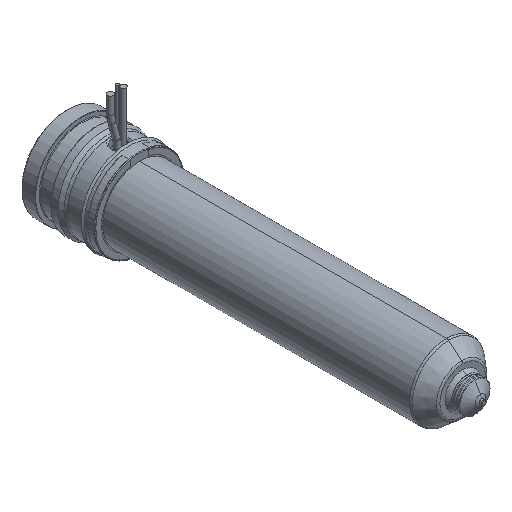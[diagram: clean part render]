
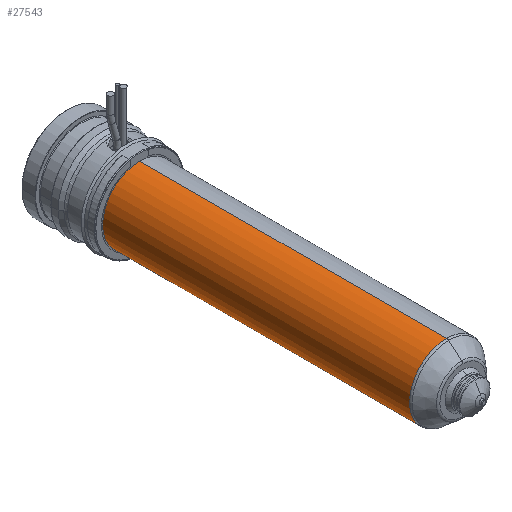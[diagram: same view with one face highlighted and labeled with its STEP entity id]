
A CAD part, isometric view. The second image highlights one B-rep face of the part: STEP entity #27543.
In plain terms, the highlighted cylindrical face has radius 12 mm (diameter 24 mm), a partial arc.
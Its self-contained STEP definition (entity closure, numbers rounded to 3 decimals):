
#26934=CARTESIAN_POINT('',(0.,-123.736,0.));
#26935=DIRECTION('',(0.,-1.,0.));
#26936=DIRECTION('',(0.,0.,1.));
#26937=AXIS2_PLACEMENT_3D('',#26934,#26935,#26936);
#26942=CARTESIAN_POINT('',(0.,-24.,0.));
#26943=DIRECTION('',(0.,1.,0.));
#26944=DIRECTION('',(0.,0.,-1.));
#26945=AXIS2_PLACEMENT_3D('',#26942,#26943,#26944);
#26950=DIRECTION('',(0.,1.,0.));
#26951=VECTOR('',#26950,99.736);
#26952=CARTESIAN_POINT('',(0.,-123.736,12.));
#26953=LINE('',#26952,#26951);
#26965=DIRECTION('',(0.,1.,0.));
#26966=VECTOR('',#26965,99.736);
#26967=CARTESIAN_POINT('',(0.,-123.736,-12.));
#26968=LINE('',#26967,#26966);
#27148=CARTESIAN_POINT('',(0.,-123.736,12.));
#27149=CARTESIAN_POINT('',(0.,-24.,12.));
#27150=VERTEX_POINT('',#27148);
#27151=VERTEX_POINT('',#27149);
#27152=CARTESIAN_POINT('',(0.,-123.736,-12.));
#27153=CARTESIAN_POINT('',(0.,-24.,-12.));
#27154=VERTEX_POINT('',#27152);
#27155=VERTEX_POINT('',#27153);
#27529=CARTESIAN_POINT('',(0.,-14.2,0.));
#27530=DIRECTION('',(0.,-1.,0.));
#27531=DIRECTION('',(0.,0.,1.));
#27532=AXIS2_PLACEMENT_3D('',#27529,#27530,#27531);
#27533=CYLINDRICAL_SURFACE('',#27532,12.);
#27535=ORIENTED_EDGE('',*,*,#27534,.F.);
#27536=ORIENTED_EDGE('',*,*,#27524,.T.);
#27538=ORIENTED_EDGE('',*,*,#27537,.T.);
#27540=ORIENTED_EDGE('',*,*,#27539,.T.);
#27541=EDGE_LOOP('',(#27535,#27536,#27538,#27540));
#27542=FACE_OUTER_BOUND('',#27541,.F.);
#27543=ADVANCED_FACE('',(#27542),#27533,.T.);
#26938=CIRCLE('',#26937,12.);
#26946=CIRCLE('',#26945,12.);
#27524=EDGE_CURVE('',#27150,#27154,#26938,.T.);
#27534=EDGE_CURVE('',#27150,#27151,#26953,.T.);
#27537=EDGE_CURVE('',#27154,#27155,#26968,.T.);
#27539=EDGE_CURVE('',#27155,#27151,#26946,.T.);
